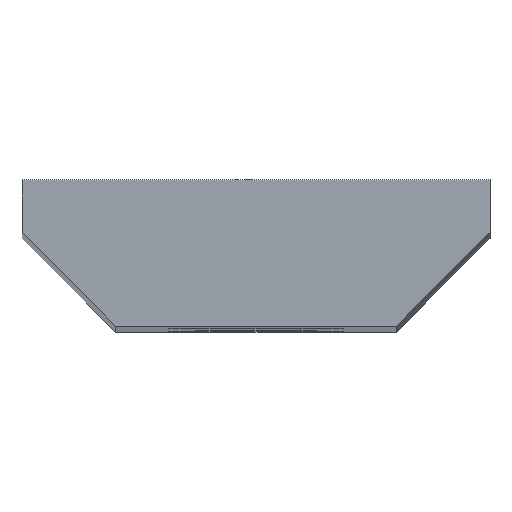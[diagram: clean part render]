
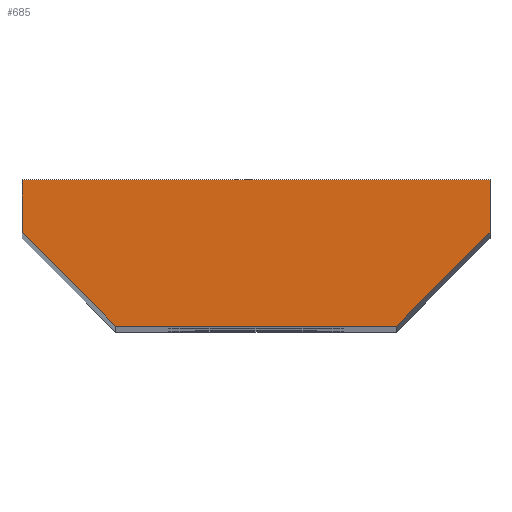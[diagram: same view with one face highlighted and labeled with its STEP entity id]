
A CAD part, top view. The second image highlights one B-rep face of the part: STEP entity #685.
In plain terms, the highlighted planar face has unit normal (0, 0, 1).
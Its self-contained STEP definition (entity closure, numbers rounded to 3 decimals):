
#225=DIRECTION('',(-1.,0.,0.));
#226=VECTOR('',#225,16.);
#227=CARTESIAN_POINT('',(8.,0.,60.));
#228=LINE('',#227,#226);
#229=DIRECTION('',(0.,-1.,0.));
#230=VECTOR('',#229,1.8);
#231=CARTESIAN_POINT('',(8.,0.,60.));
#232=LINE('',#231,#230);
#233=DIRECTION('',(-0.707,-0.707,0.));
#234=VECTOR('',#233,4.525);
#235=CARTESIAN_POINT('',(8.,-1.8,60.));
#236=LINE('',#235,#234);
#237=DIRECTION('',(-1.,0.,0.));
#238=VECTOR('',#237,9.6);
#239=CARTESIAN_POINT('',(4.8,-5.,60.));
#240=LINE('',#239,#238);
#241=DIRECTION('',(-0.707,0.707,0.));
#242=VECTOR('',#241,4.525);
#243=CARTESIAN_POINT('',(-4.8,-5.,60.));
#244=LINE('',#243,#242);
#245=DIRECTION('',(0.,1.,0.));
#246=VECTOR('',#245,1.8);
#247=CARTESIAN_POINT('',(-8.,-1.8,60.));
#248=LINE('',#247,#246);
#293=CARTESIAN_POINT('',(-8.,-1.8,60.));
#294=CARTESIAN_POINT('',(-8.,0.,60.));
#295=VERTEX_POINT('',#293);
#296=VERTEX_POINT('',#294);
#297=CARTESIAN_POINT('',(-4.8,-5.,60.));
#298=VERTEX_POINT('',#297);
#299=CARTESIAN_POINT('',(4.8,-5.,60.));
#300=VERTEX_POINT('',#299);
#301=CARTESIAN_POINT('',(8.,-1.8,60.));
#302=VERTEX_POINT('',#301);
#303=CARTESIAN_POINT('',(8.,0.,60.));
#304=VERTEX_POINT('',#303);
#670=CARTESIAN_POINT('',(0.,0.,60.));
#671=DIRECTION('',(0.,0.,1.));
#672=DIRECTION('',(1.,0.,0.));
#673=AXIS2_PLACEMENT_3D('',#670,#671,#672);
#674=PLANE('',#673);
#675=ORIENTED_EDGE('',*,*,#356,.F.);
#677=ORIENTED_EDGE('',*,*,#676,.T.);
#679=ORIENTED_EDGE('',*,*,#678,.T.);
#680=ORIENTED_EDGE('',*,*,#438,.T.);
#681=ORIENTED_EDGE('',*,*,#650,.T.);
#682=ORIENTED_EDGE('',*,*,#663,.T.);
#683=EDGE_LOOP('',(#675,#677,#679,#680,#681,#682));
#684=FACE_OUTER_BOUND('',#683,.F.);
#685=ADVANCED_FACE('',(#684),#674,.T.);
#356=EDGE_CURVE('',#304,#296,#228,.T.);
#438=EDGE_CURVE('',#300,#298,#240,.T.);
#650=EDGE_CURVE('',#298,#295,#244,.T.);
#663=EDGE_CURVE('',#295,#296,#248,.T.);
#676=EDGE_CURVE('',#304,#302,#232,.T.);
#678=EDGE_CURVE('',#302,#300,#236,.T.);
